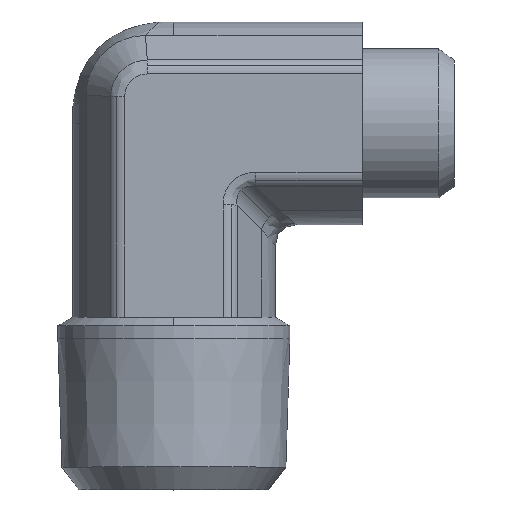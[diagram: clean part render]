
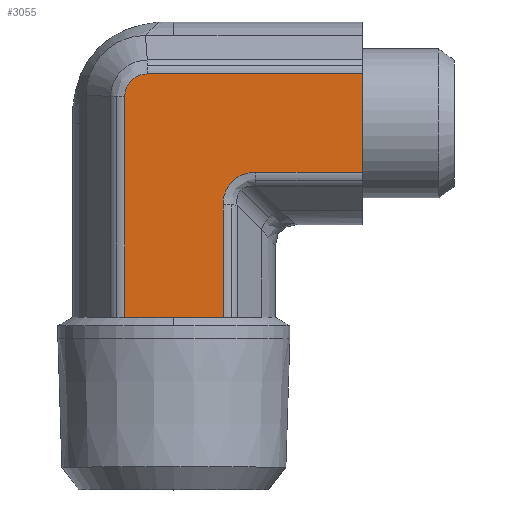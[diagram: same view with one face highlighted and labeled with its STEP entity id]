
A CAD part, top view. The second image highlights one B-rep face of the part: STEP entity #3055.
In plain terms, the highlighted planar face has unit normal (0, 0, 1) as drawn and (0, -1, 0) by its records, which use the part's own axes.
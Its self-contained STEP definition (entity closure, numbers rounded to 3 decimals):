
#319=CARTESIAN_POINT('',(3.092,-9.4,4.561));
#320=VERTEX_POINT('',#319);
#328=CARTESIAN_POINT('',(13.5,-9.4,4.561));
#329=VERTEX_POINT('',#328);
#330=CARTESIAN_POINT('',(3.092,-9.4,4.561));
#331=DIRECTION('',(1.0,0.0,0.0));
#332=VECTOR('',#331,10.408);
#333=LINE('',#330,#332);
#334=EDGE_CURVE('',#320,#329,#333,.T.);
#443=CARTESIAN_POINT('',(-9.061,-9.4,-2.461));
#444=VERTEX_POINT('',#443);
#452=CARTESIAN_POINT('',(-9.061,-9.4,17.5));
#453=VERTEX_POINT('',#452);
#454=CARTESIAN_POINT('',(-9.061,-9.4,-2.461));
#455=DIRECTION('',(0.0,0.0,1.0));
#456=VECTOR('',#455,19.961);
#457=LINE('',#454,#456);
#458=EDGE_CURVE('',#444,#453,#457,.T.);
#629=CARTESIAN_POINT('',(13.5,-9.4,0.));
#630=VERTEX_POINT('',#629);
#2004=CARTESIAN_POINT('',(0.061,-9.4,17.5));
#2005=VERTEX_POINT('',#2004);
#2006=CARTESIAN_POINT('',(0.061,-9.4,17.5));
#2007=DIRECTION('',(-1.0,0.0,0.0));
#2008=VECTOR('',#2007,9.122);
#2009=LINE('',#2006,#2008);
#2010=EDGE_CURVE('',#2005,#453,#2009,.T.);
#2359=CARTESIAN_POINT('',(13.5,-9.4,-4.561));
#2360=VERTEX_POINT('',#2359);
#2361=CARTESIAN_POINT('',(13.5,-9.4,-4.561));
#2362=DIRECTION('',(0.0,0.0,1.0));
#2363=VECTOR('',#2362,4.561);
#2364=LINE('',#2361,#2363);
#2365=EDGE_CURVE('',#2360,#630,#2364,.T.);
#2406=CARTESIAN_POINT('',(13.5,-9.4,0.));
#2407=DIRECTION('',(0.0,0.0,1.0));
#2408=VECTOR('',#2407,4.561);
#2409=LINE('',#2406,#2408);
#2410=EDGE_CURVE('',#630,#329,#2409,.T.);
#2740=CARTESIAN_POINT('',(-6.961,-9.4,-4.561));
#2741=VERTEX_POINT('',#2740);
#2749=CARTESIAN_POINT('',(-9.061,-9.4,-2.461));
#2750=CARTESIAN_POINT('',(-9.061,-9.4,-2.598));
#2751=CARTESIAN_POINT('',(-9.048,-9.4,-2.736));
#2752=CARTESIAN_POINT('',(-8.977,-9.4,-3.088));
#2753=CARTESIAN_POINT('',(-8.901,-9.4,-3.296));
#2754=CARTESIAN_POINT('',(-8.62,-9.4,-3.796));
#2755=CARTESIAN_POINT('',(-8.37,-9.4,-4.058));
#2756=CARTESIAN_POINT('',(-7.737,-9.4,-4.451));
#2757=CARTESIAN_POINT('',(-7.349,-9.4,-4.561));
#2758=CARTESIAN_POINT('',(-6.961,-9.4,-4.561));
#2759=B_SPLINE_CURVE_WITH_KNOTS('',3,(#2749,#2750,#2751,#2752,#2753,#2754,#2755,#2756,#2757,#2758),.UNSPECIFIED.,.F.,.U.,(4,2,2,2,4),(-3.281,-2.871,-2.215,-1.165,0.0),.UNSPECIFIED.);
#2760=EDGE_CURVE('',#2741,#444,#2759,.F.);
#2787=CARTESIAN_POINT('',(13.5,-9.4,-4.561));
#2788=DIRECTION('',(-1.0,0.0,0.0));
#2789=VECTOR('',#2788,20.461);
#2790=LINE('',#2787,#2789);
#2791=EDGE_CURVE('',#2360,#2741,#2790,.T.);
#2923=CARTESIAN_POINT('',(0.061,-9.4,7.592));
#2924=VERTEX_POINT('',#2923);
#2925=CARTESIAN_POINT('',(0.061,-9.4,17.5));
#2926=DIRECTION('',(0.0,0.0,-1.0));
#2927=VECTOR('',#2926,9.908);
#2928=LINE('',#2925,#2927);
#2929=EDGE_CURVE('',#2005,#2924,#2928,.T.);
#3012=CARTESIAN_POINT('',(4.103,-9.4,8.603));
#3013=DIRECTION('',(0.,-1.0,0.));
#3014=DIRECTION('',(-0.707,0.,-0.707));
#3015=AXIS2_PLACEMENT_3D('',#3012,#3013,#3014);
#3016=ELLIPSE('',#3015,4.518,3.5);
#3017=EDGE_CURVE('',#2924,#320,#3016,.T.);
#3039=CARTESIAN_POINT('',(-4.5,-9.4,-3.175));
#3040=DIRECTION('',(0.0,-1.0,0.0));
#3041=DIRECTION('',(0.0,0.0,-1.0));
#3042=AXIS2_PLACEMENT_3D('',#3039,#3040,#3041);
#3043=PLANE('',#3042);
#3044=ORIENTED_EDGE('',*,*,#2010,.T.);
#3045=ORIENTED_EDGE('',*,*,#458,.F.);
#3046=ORIENTED_EDGE('',*,*,#2760,.F.);
#3047=ORIENTED_EDGE('',*,*,#2791,.F.);
#3048=ORIENTED_EDGE('',*,*,#2365,.T.);
#3049=ORIENTED_EDGE('',*,*,#2410,.T.);
#3050=ORIENTED_EDGE('',*,*,#334,.F.);
#3051=ORIENTED_EDGE('',*,*,#3017,.F.);
#3052=ORIENTED_EDGE('',*,*,#2929,.F.);
#3053=EDGE_LOOP('',(#3044,#3045,#3046,#3047,#3048,#3049,#3050,#3051,#3052));
#3054=FACE_OUTER_BOUND('',#3053,.T.);
#3055=ADVANCED_FACE('',(#3054),#3043,.T.);
